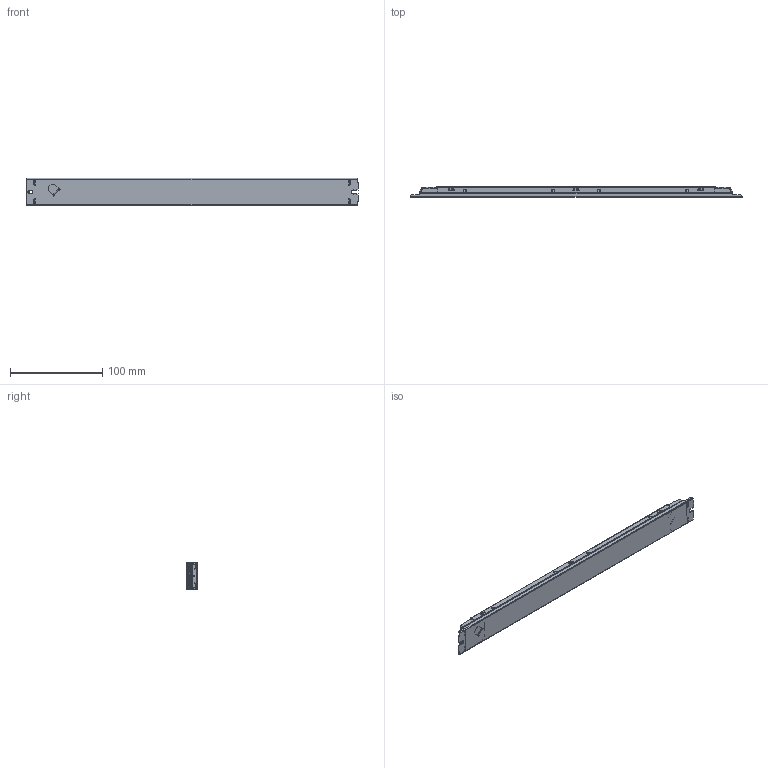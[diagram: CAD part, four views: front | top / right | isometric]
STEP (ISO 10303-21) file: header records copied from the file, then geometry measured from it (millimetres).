
FILE_DESCRIPTION (( 'STEP AP214' ), '1' );
FILE_NAME ('4155605swm000.step', '2019-10-21T07:00:26', ( 'OSRAM' ), ( 'OSRAM' ), 'SwSTEP 2.0', 'SolidWorks 2017', '' );
FILE_SCHEMA (( 'AUTOMOTIVE_DESIGN' ));
Length unit declared in the file: millimetre
Products named in the file (1): 4155605swm000
Bounding box: 359 x 11.5 x 29.6 mm (x, y, z)
Volume: 82120.6 mm3; surface area: 61772.8 mm2
Topology: 1 solids, 1 shells, 1921 faces, 5443 edges, 3522 vertices
Faces by surface type: plane 1055, cylinder 657, torus 70, cone 64, bspline 63, sphere 12
Entity records: 64823 total; most frequent: CARTESIAN_POINT 15559, ORIENTED_EDGE 10878, DIRECTION 9788, EDGE_CURVE 5439, VECTOR 3532, LINE 3532, VERTEX_POINT 3522, AXIS2_PLACEMENT_3D 3128
